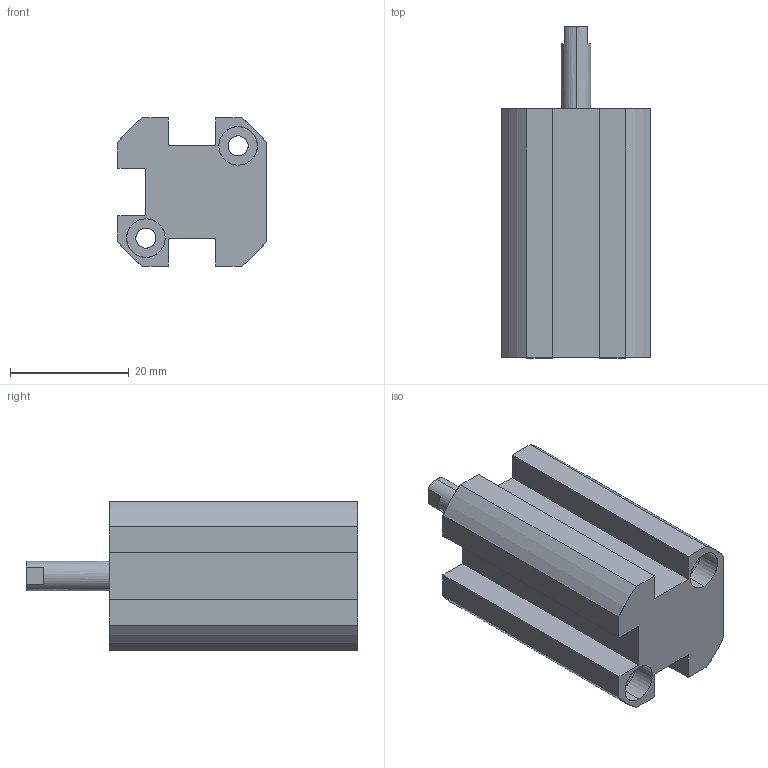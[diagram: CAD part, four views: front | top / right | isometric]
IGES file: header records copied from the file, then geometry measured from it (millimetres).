
Start section: SolidWorks IGES file using analytic representation for surfaces
Global section: file name: C:\Users\Toshiba\Desktop\XG#0-10D-10.IGS; native system: SolidWorks 2014; preprocessor: SolidWorks 2014; author: Toshiba; date: 160524.092917; units: millimetre
Bounding box: 25 x 56 x 25 mm (x, y, z)
Surface area: 7527.6 mm2 (no closed solid volume)
Topology: 0 solids, 0 shells, 72 faces, 1163 edges, 1161 vertices
Faces by surface type: revolution 39, bspline 33
